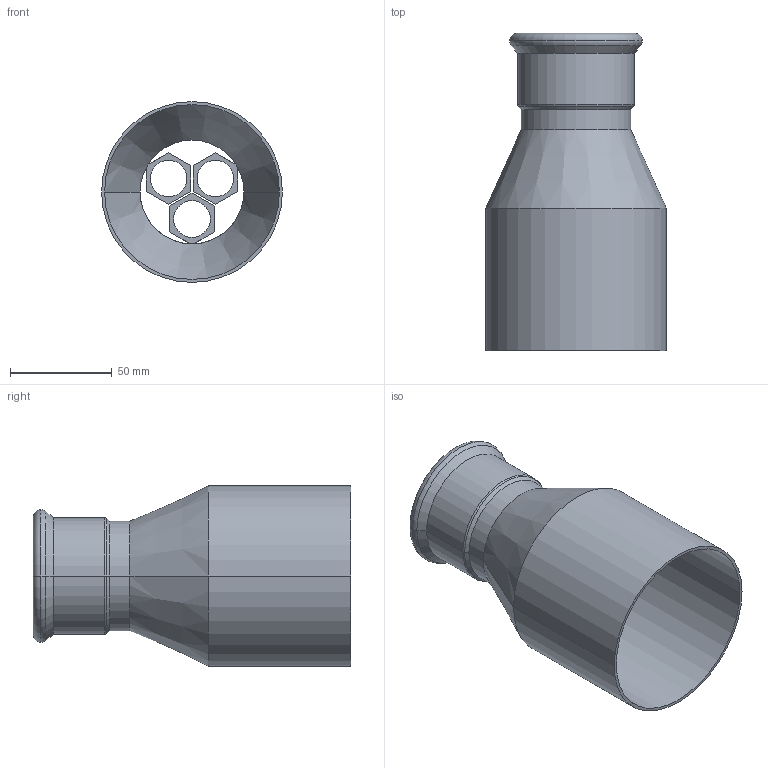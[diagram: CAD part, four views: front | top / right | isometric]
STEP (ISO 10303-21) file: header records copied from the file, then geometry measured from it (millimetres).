
FILE_DESCRIPTION(('OneSpaceDesigner STEP Export'),'2;1');
FILE_NAME('R2707 54x89.stp','2010-06-09T14:01:26',(''),(''),'OneSpace Designer STEP processor for AP214 (Solid Model)','OneSpace Modeling 15.00A 14-Mar-2007 (C) CoCreate Software GmbH','');
FILE_SCHEMA(('AUTOMOTIVE_DESIGN { 1 0 10303 214 1 1 1 1 }'));
Length unit declared in the file: millimetre
Products named in the file (2): R2707_54x89
Assembly tree (1 placements, depth 2):
  R2707_54x89
    R2707_54x89
Bounding box: 88.9 x 156 x 88.9 mm (x, y, z)
Volume: 57059.8 mm3; surface area: 77401.2 mm2
Topology: 1 solids, 1 shells, 68 faces, 164 edges, 103 vertices
Faces by surface type: plane 31, cylinder 23, cone 8, torus 6
Entity records: 1764 total; most frequent: ORIENTED_EDGE 328, CARTESIAN_POINT 281, DIRECTION 259, EDGE_CURVE 164, VERTEX_POINT 103, VECTOR 97, LINE 97, AXIS2_PLACEMENT_3D 81
